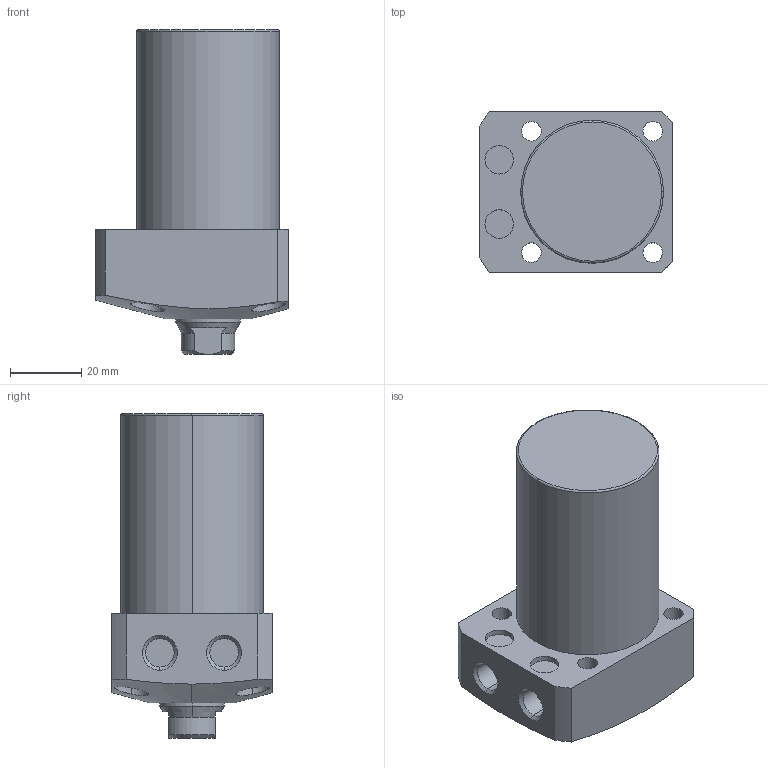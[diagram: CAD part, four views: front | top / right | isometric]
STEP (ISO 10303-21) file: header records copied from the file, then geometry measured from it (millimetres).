
FILE_DESCRIPTION (( 'STEP AP203' ), '1' );
FILE_NAME ('CLL-0400-CA-45.STEP', '2017-05-09T05:33:36', ( '' ), ( '' ), 'SwSTEP 2.0', 'SolidWorks 2015', '' );
FILE_SCHEMA (( 'CONFIG_CONTROL_DESIGN' ));
Length unit declared in the file: millimetre
Products named in the file (1): CLL-0400-CA-45
Bounding box: 54 x 45 x 91 mm (x, y, z)
Volume: 121817.7 mm3; surface area: 18936.4 mm2
Topology: 1 solids, 1 shells, 74 faces, 170 edges, 107 vertices
Faces by surface type: cylinder 35, plane 22, cone 15, torus 2
Entity records: 2512 total; most frequent: CARTESIAN_POINT 725, DIRECTION 374, ORIENTED_EDGE 336, EDGE_CURVE 168, AXIS2_PLACEMENT_3D 155, VERTEX_POINT 107, EDGE_LOOP 93, CIRCLE 80
